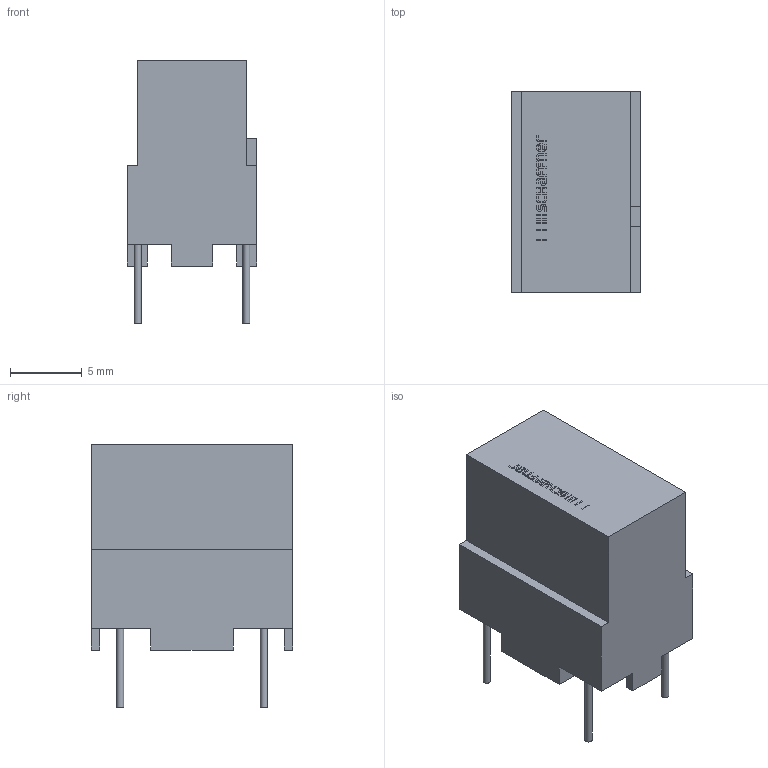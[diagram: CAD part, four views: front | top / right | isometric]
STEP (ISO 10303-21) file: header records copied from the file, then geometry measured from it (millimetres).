
FILE_DESCRIPTION((''),'2;1');
FILE_NAME('K:\CAD-PDM\Library\Inventor\3D format STEP file\3D RN-series\RN204.stp','2016-07-08T15:12:40',('jittrapon.maneerat'),(''),'Autodesk Inventor 2013','Autodesk Inventor 2013','');
FILE_SCHEMA(('AUTOMOTIVE_DESIGN { 1 0 10303 214 1 1 1 1 }'));
Length unit declared in the file: millimetre
Products named in the file (1): Part5
Bounding box: 9 x 14 x 18.3 mm (x, y, z)
Volume: 1497 mm3; surface area: 924.7 mm2
Topology: 1 solids, 1 shells, 191 faces, 507 edges, 338 vertices
Faces by surface type: plane 155, bspline 32, cylinder 4
Full cylindrical faces by diameter (mm): 0.5 x4
Entity records: 6256 total; most frequent: CARTESIAN_POINT 1521, ORIENTED_EDGE 1006, DIRECTION 767, EDGE_CURVE 503, VECTOR 431, LINE 431, VERTEX_POINT 338, EDGE_LOOP 215
